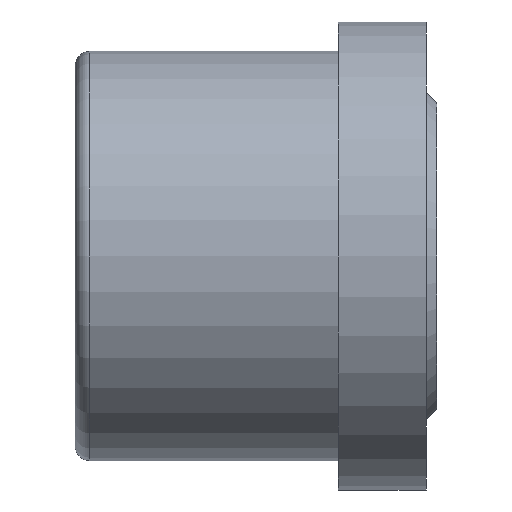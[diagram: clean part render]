
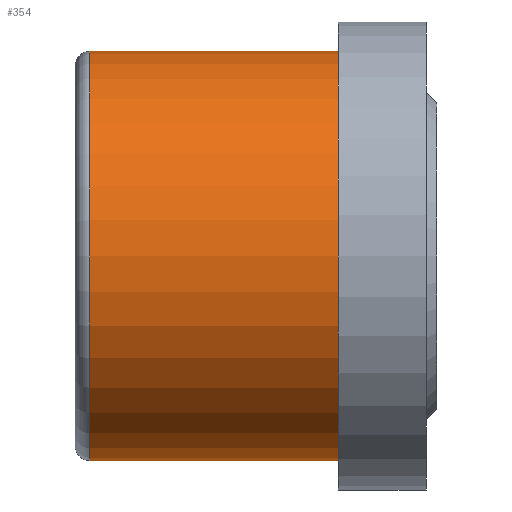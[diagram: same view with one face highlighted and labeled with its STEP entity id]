
A CAD part, left-side view. The second image highlights one B-rep face of the part: STEP entity #354.
In plain terms, the highlighted cylindrical face has radius 7 mm (diameter 14 mm), a partial arc.
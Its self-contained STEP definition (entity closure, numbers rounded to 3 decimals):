
#10 = CARTESIAN_POINT ( 'NONE',  ( 0., 8.5, -7. ) ) ;
#19 = CARTESIAN_POINT ( 'NONE',  ( 0., 0., 7. ) ) ;
#24 = EDGE_CURVE ( 'NONE', #463, #402, #325, .T. ) ;
#30 = CARTESIAN_POINT ( 'NONE',  ( 0., 0., 0. ) ) ;
#55 = DIRECTION ( 'NONE',  ( 0., -1., 0. ) ) ;
#59 = VECTOR ( 'NONE', #287, 1000. ) ;
#61 = AXIS2_PLACEMENT_3D ( 'NONE', #30, #55, #68 ) ;
#68 = DIRECTION ( 'NONE',  ( 0., 0., -1. ) ) ;
#84 = CARTESIAN_POINT ( 'NONE',  ( 0., 0., 0. ) ) ;
#87 = AXIS2_PLACEMENT_3D ( 'NONE', #84, #353, #125 ) ;
#102 = VERTEX_POINT ( 'NONE', #10 ) ;
#106 = VERTEX_POINT ( 'NONE', #237 ) ;
#108 = EDGE_CURVE ( 'NONE', #106, #102, #452, .T. ) ;
#125 = DIRECTION ( 'NONE',  ( 0., 0., -1. ) ) ;
#130 = EDGE_CURVE ( 'NONE', #102, #402, #146, .T. ) ;
#136 = ORIENTED_EDGE ( 'NONE', *, *, #108, .T. ) ;
#146 = LINE ( 'NONE', #239, #59 ) ;
#168 = DIRECTION ( 'NONE',  ( 0., -1., 0. ) ) ;
#180 = ORIENTED_EDGE ( 'NONE', *, *, #24, .F. ) ;
#189 = LINE ( 'NONE', #19, #381 ) ;
#190 = EDGE_CURVE ( 'NONE', #106, #463, #189, .T. ) ;
#237 = CARTESIAN_POINT ( 'NONE',  ( 0., 8.5, 7. ) ) ;
#239 = CARTESIAN_POINT ( 'NONE',  ( 0., 0., -7. ) ) ;
#256 = ORIENTED_EDGE ( 'NONE', *, *, #190, .F. ) ;
#259 = FACE_OUTER_BOUND ( 'NONE', #304, .T. ) ;
#262 = CARTESIAN_POINT ( 'NONE',  ( 0., 0., -7. ) ) ;
#266 = ORIENTED_EDGE ( 'NONE', *, *, #130, .T. ) ;
#287 = DIRECTION ( 'NONE',  ( 0., -1., 0. ) ) ;
#291 = DIRECTION ( 'NONE',  ( 0., -1., 0. ) ) ;
#304 = EDGE_LOOP ( 'NONE', ( #256, #136, #266, #180 ) ) ;
#325 = CIRCLE ( 'NONE', #87, 7. ) ;
#353 = DIRECTION ( 'NONE',  ( 0., -1., 0. ) ) ;
#354 = ADVANCED_FACE ( 'NONE', ( #259 ), #450, .T. ) ;
#381 = VECTOR ( 'NONE', #291, 1000. ) ;
#398 = CARTESIAN_POINT ( 'NONE',  ( 0., 8.5, 0. ) ) ;
#402 = VERTEX_POINT ( 'NONE', #262 ) ;
#416 = CARTESIAN_POINT ( 'NONE',  ( 0., 0., 7. ) ) ;
#431 = DIRECTION ( 'NONE',  ( 0., 0., -1. ) ) ;
#433 = AXIS2_PLACEMENT_3D ( 'NONE', #398, #168, #431 ) ;
#450 = CYLINDRICAL_SURFACE ( 'NONE', #61, 7. ) ;
#452 = CIRCLE ( 'NONE', #433, 7. ) ;
#463 = VERTEX_POINT ( 'NONE', #416 ) ;
